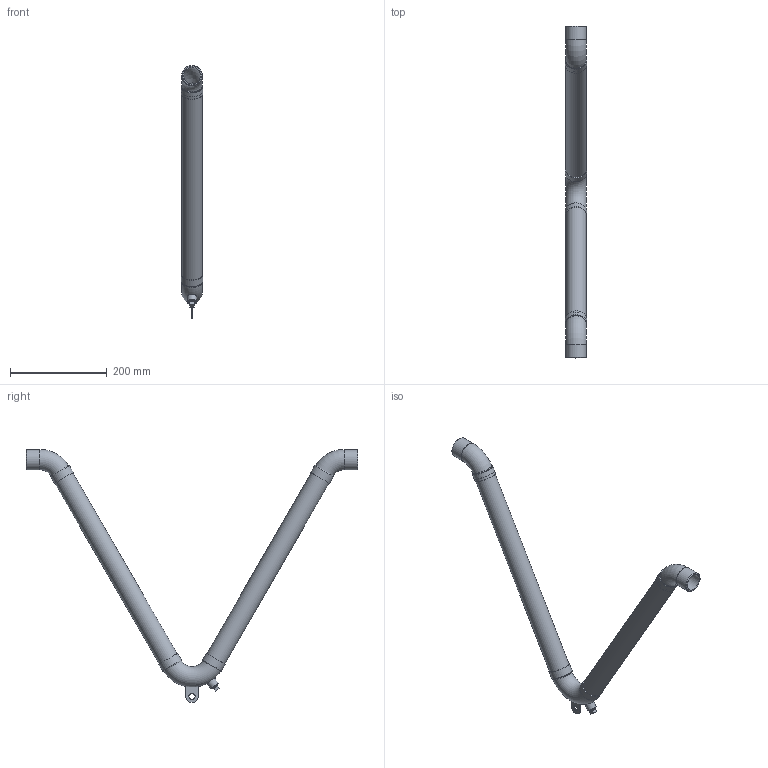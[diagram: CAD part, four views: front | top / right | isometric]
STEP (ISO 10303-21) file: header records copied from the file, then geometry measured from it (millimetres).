
FILE_DESCRIPTION(/* description */ (''),/* implementation_level */ '2;1');
FILE_NAME(/* name */ 'C:\001_Work\Designs\CSAVWN\CSAVWN-1.25x27.stp',/* time_stamp */ '2016-06-02T08:25:18-04:00',/* author */ ('rramoutar'),/* organization */ ('Mason Industries Inc.'),/* preprocessor_version */ 'ST-DEVELOPER v15.6',/* originating_system */ 'Autodesk Inventor 2015',/* authorisation */ '');
FILE_SCHEMA (('CONFIG_CONTROL_DESIGN'));
Length unit declared in the file: inch
Products named in the file (1): CSAVWN-1.25x27
Bounding box: 45.1 x 685.8 x 522.73 mm (x, y, z)
Volume: 165198.9 mm3; surface area: 334068.8 mm2
Topology: 14 solids, 14 shells, 81 faces, 159 edges, 105 vertices
Faces by surface type: plane 40, cylinder 27, torus 10, cone 4
Full cylindrical faces by diameter (mm): 11.112 x1, 12.7 x1, 13.716 x2, 19.05 x2, 35.052 x2, 41.275 x4, 42.164 x4, 42.774 x6, 45.155 x4
Entity records: 1990 total; most frequent: CARTESIAN_POINT 372, DIRECTION 328, ORIENTED_EDGE 206, AXIS2_PLACEMENT_3D 153, EDGE_LOOP 150, EDGE_CURVE 103, VERTEX_POINT 91, STYLED_ITEM 82
